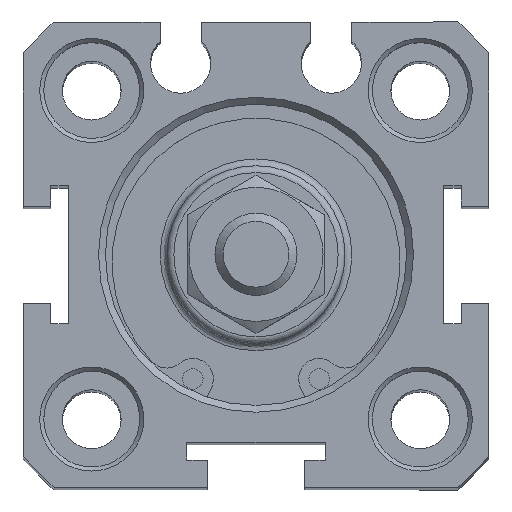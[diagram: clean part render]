
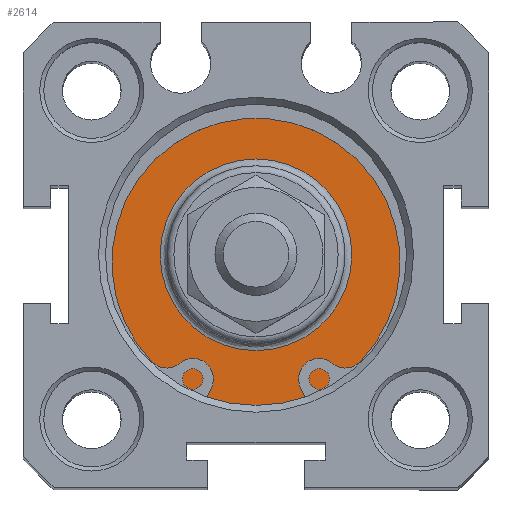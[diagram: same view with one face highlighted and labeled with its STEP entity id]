
A CAD part, top view. The second image highlights one B-rep face of the part: STEP entity #2614.
In plain terms, the highlighted planar face has unit normal (0, 0, 1).
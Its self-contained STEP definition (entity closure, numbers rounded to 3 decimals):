
#2552=CARTESIAN_POINT('',(0.957,6.522,101.8));
#2553=VERTEX_POINT('',#2552);
#2554=CARTESIAN_POINT('',(0.957,-0.478,101.8));
#2555=DIRECTION('',(0.0,0.0,1.0));
#2556=DIRECTION('',(0.0,-1.0,0.0));
#2557=AXIS2_PLACEMENT_3D('',#2554,#2555,#2556);
#2558=CIRCLE('',#2557,7.);
#2559=EDGE_CURVE('',#2553,#2553,#2558,.T.);
#2595=CARTESIAN_POINT('',(0.957,8.272,101.8));
#2596=DIRECTION('',(0.0,0.0,1.0));
#2597=DIRECTION('',(1.0,0.0,0.0));
#2598=AXIS2_PLACEMENT_3D('',#2595,#2596,#2597);
#2599=PLANE('',#2598);
#2600=CARTESIAN_POINT('',(0.957,10.522,101.8));
#2601=VERTEX_POINT('',#2600);
#2602=CARTESIAN_POINT('',(0.957,-0.478,101.8));
#2603=DIRECTION('',(0.0,0.0,1.0));
#2604=DIRECTION('',(0.0,1.0,0.0));
#2605=AXIS2_PLACEMENT_3D('',#2602,#2603,#2604);
#2606=CIRCLE('',#2605,11.);
#2607=EDGE_CURVE('',#2601,#2601,#2606,.T.);
#2608=ORIENTED_EDGE('',*,*,#2607,.T.);
#2609=EDGE_LOOP('',(#2608));
#2610=FACE_OUTER_BOUND('',#2609,.T.);
#2611=ORIENTED_EDGE('',*,*,#2559,.F.);
#2612=EDGE_LOOP('',(#2611));
#2613=FACE_BOUND('',#2612,.T.);
#2614=ADVANCED_FACE('',(#2610,#2613),#2599,.T.);
